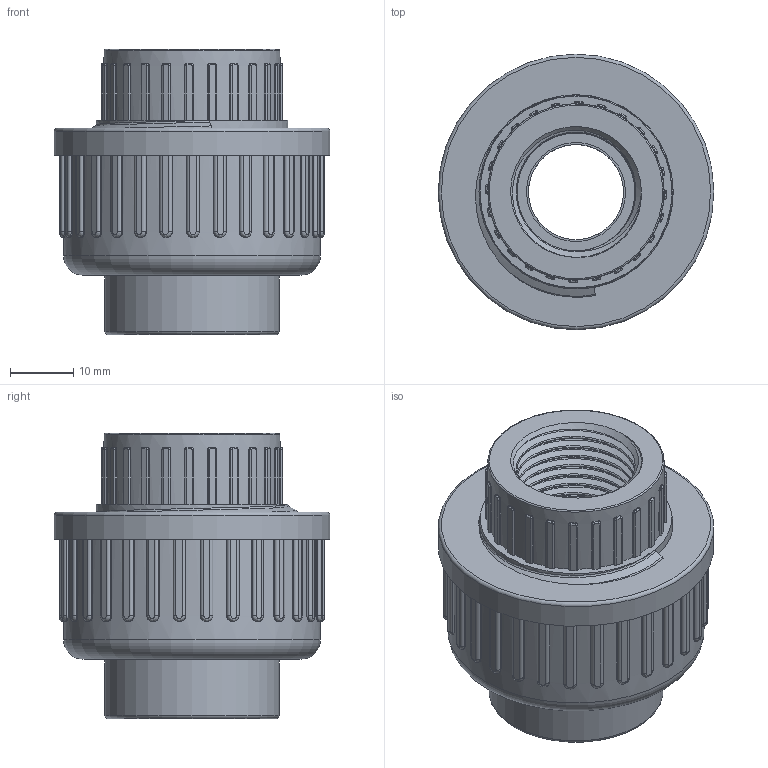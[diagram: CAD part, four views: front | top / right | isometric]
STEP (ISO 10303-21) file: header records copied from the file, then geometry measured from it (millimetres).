
FILE_DESCRIPTION(/* description */ (''),/* implementation_level */ '2;1');
FILE_NAME(/* name */ 'C:\Users\POLYPIPE\Desktop\DATASET INVENTOR\LIBRERIA EFFAST\3D_RACCORDI\RGR\3D_RGRBOG\3D_RGRBOG020B.stp',/* time_stamp */ '2018-01-22T14:30:58+01:00',/* author */ ('POLYPIPE'),/* organization */ (''),/* preprocessor_version */ 'ST-DEVELOPER v16.1',/* originating_system */ 'Autodesk Inventor 2016',/* authorisation */ '');
FILE_SCHEMA (('CONFIG_CONTROL_DESIGN'));
Length unit declared in the file: centimetre
Products named in the file (1): 3D_RGRBOG
Bounding box: 43.5 x 43.5 x 45 mm (x, y, z)
Volume: 31658.3 mm3; surface area: 13682.2 mm2
Topology: 1 solids, 1 shells, 522 faces, 1399 edges, 887 vertices
Faces by surface type: cylinder 228, plane 201, bspline 88, torus 4, cone 1
Full cylindrical faces by diameter (mm): 15 x1, 15.631 x1, 18.631 x1, 20 x1, 27.5 x1, 27.8 x1, 27.9 x1, 30 x1, 30.291 x2, 30.7 x5, 40.5 x1, 43.5 x1
Entity records: 22536 total; most frequent: CARTESIAN_POINT 9317, ORIENTED_EDGE 2730, DIRECTION 2626, EDGE_CURVE 1365, AXIS2_PLACEMENT_3D 962, VERTEX_POINT 873, LINE 702, VECTOR 702
